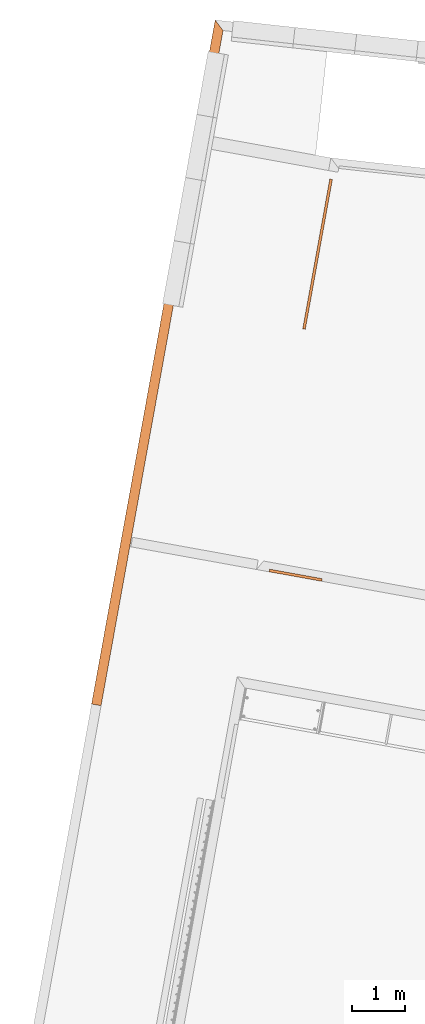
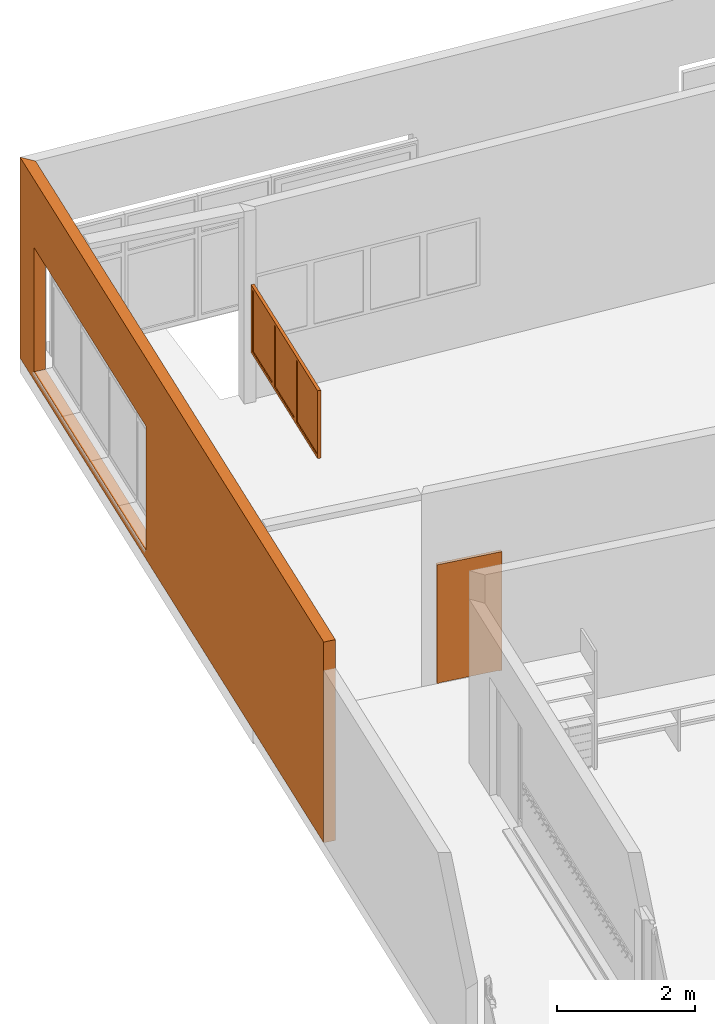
# One storey, part 46 of 52: 3 proxies.
"""IFC2X3 building model written with IfcOpenShell, lengths in metres."""

from ifc_helpers import new_model, entity, si_unit, converted_unit, derived_unit, money_unit, direction, frame, origin_with_axes, place, context, subcontext, project, spatial, polyline, outline, extrude, boolean, open_shell, faceted_brep, surface_model, material, type_object, element, save


model = new_model("IFC2X3")

# Units and contexts
model_context = context("Model", 3, precision=1e-05, world=origin_with_axes(), true_north=direction((0.0, 1.0)))
body_context = subcontext(model_context, "Body", "Model", "MODEL_VIEW")
ifc_project = project(units=[si_unit("LENGTHUNIT", "METRE"), si_unit("AREAUNIT", "SQUARE_METRE"), si_unit("VOLUMEUNIT", "CUBIC_METRE"), converted_unit("PLANEANGLEUNIT", "DEGREE", entity("IfcPlaneAngleMeasure", 0.0174532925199), si_unit("PLANEANGLEUNIT", "RADIAN"), dimensions=[0, 0, 0, 0, 0, 0, 0]), money_unit("CHF"), converted_unit("TIMEUNIT", "Year", entity("IfcTimeMeasure", 31556926.0), si_unit("TIMEUNIT", "SECOND"), dimensions=[0, 0, 1, 0, 0, 0, 0]), si_unit("MASSUNIT", "GRAM", prefix="KILO"), si_unit("THERMODYNAMICTEMPERATUREUNIT", "DEGREE_CELSIUS"), si_unit("LUMINOUSINTENSITYUNIT", "LUMEN"), si_unit("ENERGYUNIT", "JOULE", prefix="MEGA"), derived_unit("THERMALCONDUCTANCEUNIT", [(si_unit("POWERUNIT", "WATT"), 1), (si_unit("LENGTHUNIT", "METRE"), -1), (si_unit("THERMODYNAMICTEMPERATUREUNIT", "KELVIN"), -1)]), derived_unit("SPECIFICHEATCAPACITYUNIT", [(si_unit("ENERGYUNIT", "JOULE"), 1), (si_unit("MASSUNIT", "GRAM", prefix="KILO"), -1), (si_unit("THERMODYNAMICTEMPERATUREUNIT", "KELVIN"), -1)]), derived_unit("MASSDENSITYUNIT", [(si_unit("MASSUNIT", "GRAM", prefix="KILO"), 1), (si_unit("VOLUMEUNIT", "CUBIC_METRE"), -1)])], contexts=[model_context])

# Site, building, storey
site_placement = place(None, frame((0.0, 0.0, 0.0), z_axis=(0.0, 0.0, 1.0), x_axis=(-0.177771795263, -0.984071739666, 0.0)))
site = spatial("IfcSite", under=ifc_project, at=site_placement, Name="Site", CompositionType="ELEMENT")
building_placement = place(site_placement, origin_with_axes())
building = spatial("IfcBuilding", under=site, at=building_placement, Name="Bâtiment", CompositionType="ELEMENT")
storey_placement = place(building_placement, frame((0.0, 0.0, 3.2), z_axis=(0.0, 0.0, 1.0), x_axis=(1.0, 0.0, 0.0)))
storey = spatial("IfcBuildingStorey", under=building, at=storey_placement, Name="R+1", CompositionType="ELEMENT", Elevation=3.2)

# Proxies
ifc_material_1 = material(Name="Matériau de construction IFC")
building_element_proxy_type_1 = type_object("IfcBuildingElementProxyType", Name="Porte 21", PredefinedType="NOTDEFINED")
proxy_1_placement = place(storey_placement, frame((107.884841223, -156.387050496, 0.0), z_axis=(0.0, 0.0, 1.0), x_axis=(0.0, 1.0, 0.0)))
element("IfcBuildingElementProxy", 1, at=proxy_1_placement, inside=storey, type_object=building_element_proxy_type_1, material=ifc_material_1, Name="30", context=body_context, shape_type="Brep", body=[
    faceted_brep([(0.95, 0.00999999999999, 0.0), (0.95, 0.0, 0.0), (0.95, 0.0, 2.05), (0.95, 0.00999999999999, 2.05), (0.962, 0.00999999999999, 0.0), (0.962, 0.05, 0.0), (1.0, 0.05, 0.0), (1.0, 0.0, 0.0), (1.0, 0.0, 2.05), (0.962, 0.00999999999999, 2.05), (1.0, 0.05, 2.05), (0.962, 0.05, 2.05)], [[[0, 1, 2, 3]], [[4, 5, 6, 7, 1, 0]], [[1, 7, 8, 2]], [[9, 3, 2, 8, 10, 11]], [[9, 4, 0, 3]], [[11, 5, 4, 9]], [[11, 10, 6, 5]], [[6, 10, 8, 7]]]),
    faceted_brep([(0.038, 0.00999999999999, 2.05), (0.038, 0.05, 2.05), (0.0, 0.05, 2.05), (0.0, 0.0, 2.05), (0.05, 0.0, 2.05), (0.05, 0.00999999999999, 2.05), (0.038, 0.00999999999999, 0.0), (0.038, 0.05, 0.0), (0.0, 0.05, 0.0), (0.0, 0.0, 0.0), (0.05, 0.0, 0.0), (0.05, 0.00999999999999, 0.0)], [[[0, 1, 2, 3, 4, 5]], [[0, 6, 7, 1]], [[7, 8, 2, 1]], [[2, 8, 9, 3]], [[3, 9, 10, 4]], [[5, 4, 10, 11]], [[5, 11, 6, 0]], [[6, 11, 10, 9, 8, 7]]]),
    faceted_brep([(0.962, 0.05, 2.062), (0.038, 0.05, 2.062), (0.038, 0.05, 2.05), (0.0, 0.05, 2.05), (0.0, 0.05, 2.1), (1.0, 0.05, 2.1), (1.0, 0.05, 2.05), (0.962, 0.05, 2.05), (0.962, 0.00999999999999, 2.062), (0.038, 0.00999999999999, 2.062), (0.038, 0.00999999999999, 2.05), (0.05, 0.00999999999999, 2.05), (0.05, 0.0, 2.05), (0.0, 0.0, 2.05), (0.0, 0.0, 2.1), (1.0, 0.0, 2.1), (1.0, 0.0, 2.05), (0.962, 0.00999999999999, 2.05), (0.95, 0.0, 2.05), (0.95, 0.00999999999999, 2.05)], [[[0, 1, 2, 3, 4, 5, 6, 7]], [[0, 8, 9, 1]], [[1, 9, 10, 2]], [[10, 11, 12, 13, 3, 2]], [[4, 3, 13, 14]], [[5, 4, 14, 15]], [[6, 5, 15, 16]], [[17, 7, 6, 16, 18, 19]], [[7, 17, 8, 0]], [[10, 9, 8, 17, 19, 11]], [[19, 18, 12, 11]], [[12, 18, 16, 15, 14, 13]]]),
    faceted_brep([(0.038, 0.04, 0.0), (0.962, 0.04, 0.0), (0.962, 0.00999999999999, 0.0), (0.038, 0.00999999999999, 0.0), (0.038, 0.04, 2.062), (0.962, 0.04, 2.062), (0.962, 0.00999999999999, 2.062), (0.038, 0.00999999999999, 2.062)], [[[0, 1, 2, 3]], [[0, 4, 5, 1]], [[1, 5, 6, 2]], [[3, 2, 6, 7]], [[4, 0, 3, 7]], [[5, 4, 7, 6]]]),
])
ifc_material_2 = material(Name="_BA banché RAL9007")
building_element_proxy_type_2 = type_object("IfcBuildingElementProxyType", Name="_M ext 18 +18 gris 360", PredefinedType="NOTDEFINED")
proxy_2_placement = place(storey_placement, frame((110.911028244, -159.217107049, -0.15), z_axis=(0.0, 0.0, 1.0), x_axis=(-1.0, 0.0, 0.0)))
element("IfcBuildingElementProxy", 2, at=proxy_2_placement, inside=storey, type_object=building_element_proxy_type_2, material=ifc_material_2, Name="M ext-Ouest", context=body_context, shape_type="CSG", body=[
    boolean("DIFFERENCE", extrude(outline(polyline([(0.0, -0.18), (12.8427362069, -0.18), (13.0106719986, 0.0), (0.0, 0.0), (0.0, -0.18)])), origin_with_axes(), (0.0, 0.0, 1.0), 3.55), faceted_brep([(12.4106719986, 0.0, 0.1501), (7.61067199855, 0.0, 0.1501), (7.61067199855, 0.0, 2.3491), (12.4106719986, 0.0, 2.3491), (12.4106719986, -0.18, 0.1501), (7.61067199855, -0.18, 0.1501), (7.61067199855, -0.18, 2.3491), (12.4106719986, -0.18, 2.3491)], [[[0, 1, 2, 3]], [[4, 5, 1, 0]], [[5, 6, 2, 1]], [[6, 7, 3, 2]], [[7, 4, 0, 3]], [[4, 7, 6, 5]]])),
])
building_element_proxy_type_3 = type_object("IfcBuildingElementProxyType", Name="Fenêtre horizontale à châssis multiples 21", PredefinedType="NOTDEFINED")
proxy_3_placement = place(storey_placement, frame((100.447813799, -156.627050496, 1.0), z_axis=(0.0, 0.0, 1.0), x_axis=(1.0, 0.0, 0.0)))
element("IfcBuildingElementProxy", 3, at=proxy_3_placement, inside=storey, type_object=building_element_proxy_type_3, material=ifc_material_1, Name="43", context=body_context, shape_type="SurfaceModel", body=[
    faceted_brep([(2.795, 0.0499999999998, 1.145), (2.85, 0.0499999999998, 1.145), (2.85, 0.0999999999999, 1.145), (2.795, 0.0999999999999, 1.145), (2.795, 0.0499999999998, 0.055), (2.85, 0.0499999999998, 0.055), (2.85, 0.0999999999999, 0.055), (2.795, 0.0999999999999, 0.055)], [[[0, 1, 2, 3]], [[0, 4, 5, 1]], [[1, 5, 6, 2]], [[3, 2, 6, 7]], [[4, 0, 3, 7]], [[5, 4, 7, 6]]]),
    faceted_brep([(0.055, 0.0499999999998, 0.055), (0.0, 0.0499999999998, 0.055), (0.0, 0.0999999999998, 0.055), (0.055, 0.0999999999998, 0.055), (0.055, 0.0499999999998, 1.145), (0.0, 0.0499999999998, 1.145), (0.0, 0.0999999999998, 1.145), (0.055, 0.0999999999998, 1.145)], [[[0, 1, 2, 3]], [[0, 4, 5, 1]], [[1, 5, 6, 2]], [[3, 2, 6, 7]], [[4, 0, 3, 7]], [[5, 4, 7, 6]]]),
    faceted_brep([(0.055, 0.0499999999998, 1.145), (0.0, 0.0499999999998, 1.145), (0.0, 0.0999999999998, 1.145), (0.055, 0.0999999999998, 1.145), (0.895, 0.0499999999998, 1.145), (1.005, 0.0499999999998, 1.145), (1.845, 0.0499999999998, 1.145), (1.955, 0.0499999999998, 1.145), (2.795, 0.0499999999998, 1.145), (2.85, 0.0499999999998, 1.145), (2.85, 0.0499999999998, 1.2), (0.0, 0.0499999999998, 1.2), (0.0, 0.0999999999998, 1.2), (2.85, 0.0999999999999, 1.2), (2.85, 0.0999999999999, 1.145), (2.795, 0.0999999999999, 1.145), (1.955, 0.0999999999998, 1.145), (1.845, 0.0999999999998, 1.145), (1.005, 0.0999999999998, 1.145), (0.895, 0.0999999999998, 1.145)], [[[0, 1, 2, 3]], [[0, 4, 5, 6, 7, 8, 9, 10, 11, 1]], [[1, 11, 12, 2]], [[3, 2, 12, 13, 14, 15, 16, 17, 18, 19]], [[4, 0, 3, 19]], [[5, 4, 19, 18]], [[6, 5, 18, 17]], [[7, 6, 17, 16]], [[8, 7, 16, 15]], [[9, 8, 15, 14]], [[10, 9, 14, 13]], [[11, 10, 13, 12]]]),
    faceted_brep([(0.895, 0.0499999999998, 0.055), (1.005, 0.0499999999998, 0.055), (1.005, 0.0999999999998, 0.055), (0.895, 0.0999999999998, 0.055), (0.055, 0.0499999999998, 0.055), (0.0, 0.0499999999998, 0.055), (0.0, 0.0499999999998, 0.0), (2.85, 0.0499999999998, 0.0), (2.85, 0.0499999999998, 0.055), (2.795, 0.0499999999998, 0.055), (1.955, 0.0499999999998, 0.055), (1.845, 0.0499999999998, 0.055), (1.845, 0.0999999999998, 0.055), (1.955, 0.0999999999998, 0.055), (2.795, 0.0999999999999, 0.055), (2.85, 0.0999999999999, 0.055), (2.85, 0.0999999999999, 0.0), (0.0, 0.0999999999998, 0.0), (0.0, 0.0999999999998, 0.055), (0.055, 0.0999999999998, 0.055)], [[[0, 1, 2, 3]], [[0, 4, 5, 6, 7, 8, 9, 10, 11, 1]], [[1, 11, 12, 2]], [[3, 2, 12, 13, 14, 15, 16, 17, 18, 19]], [[4, 0, 3, 19]], [[5, 4, 19, 18]], [[6, 5, 18, 17]], [[7, 6, 17, 16]], [[8, 7, 16, 15]], [[9, 8, 15, 14]], [[10, 9, 14, 13]], [[11, 10, 13, 12]]]),
    faceted_brep([(1.845, 0.0499999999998, 0.055), (1.845, 0.0499999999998, 1.145), (1.845, 0.0999999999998, 1.145), (1.845, 0.0999999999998, 0.055), (1.955, 0.0499999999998, 0.055), (1.955, 0.0499999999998, 1.145), (1.955, 0.0999999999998, 1.145), (1.955, 0.0999999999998, 0.055)], [[[0, 1, 2, 3]], [[0, 4, 5, 1]], [[1, 5, 6, 2]], [[3, 2, 6, 7]], [[4, 0, 3, 7]], [[5, 4, 7, 6]]]),
    faceted_brep([(0.895, 0.0499999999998, 0.055), (0.895, 0.0499999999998, 1.145), (0.895, 0.0999999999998, 1.145), (0.895, 0.0999999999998, 0.055), (1.005, 0.0499999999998, 0.055), (1.005, 0.0499999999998, 1.145), (1.005, 0.0999999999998, 1.145), (1.005, 0.0999999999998, 0.055)], [[[0, 1, 2, 3]], [[0, 4, 5, 1]], [[1, 5, 6, 2]], [[3, 2, 6, 7]], [[4, 0, 3, 7]], [[5, 4, 7, 6]]]),
    surface_model("IfcShellBasedSurfaceModel", [(2.795, 0.0649999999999, 0.055), (2.795, 0.0649999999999, 1.145), (1.955, 0.0649999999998, 1.145), (1.955, 0.0649999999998, 0.055)], [open_shell([[[0, 1, 2, 3]]])]),
    surface_model("IfcShellBasedSurfaceModel", [(2.795, 0.0849999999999, 0.055), (1.955, 0.0849999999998, 0.055), (1.955, 0.0849999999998, 1.145), (2.795, 0.0849999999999, 1.145)], [open_shell([[[0, 1, 2, 3]]])]),
    surface_model("IfcShellBasedSurfaceModel", [(1.845, 0.0649999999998, 0.055), (1.845, 0.0649999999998, 1.145), (1.005, 0.0649999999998, 1.145), (1.005, 0.0649999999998, 0.055)], [open_shell([[[0, 1, 2, 3]]])]),
    surface_model("IfcShellBasedSurfaceModel", [(1.845, 0.0849999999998, 0.055), (1.005, 0.0849999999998, 0.055), (1.005, 0.0849999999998, 1.145), (1.845, 0.0849999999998, 1.145)], [open_shell([[[0, 1, 2, 3]]])]),
    surface_model("IfcShellBasedSurfaceModel", [(0.895, 0.0649999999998, 0.055), (0.895, 0.0649999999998, 1.145), (0.055, 0.0649999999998, 1.145), (0.055, 0.0649999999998, 0.055)], [open_shell([[[0, 1, 2, 3]]])]),
    surface_model("IfcShellBasedSurfaceModel", [(0.895, 0.0849999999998, 0.055), (0.055, 0.0849999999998, 0.055), (0.055, 0.0849999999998, 1.145), (0.895, 0.0849999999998, 1.145)], [open_shell([[[0, 1, 2, 3]]])]),
])

save(model, "model.ifc")
